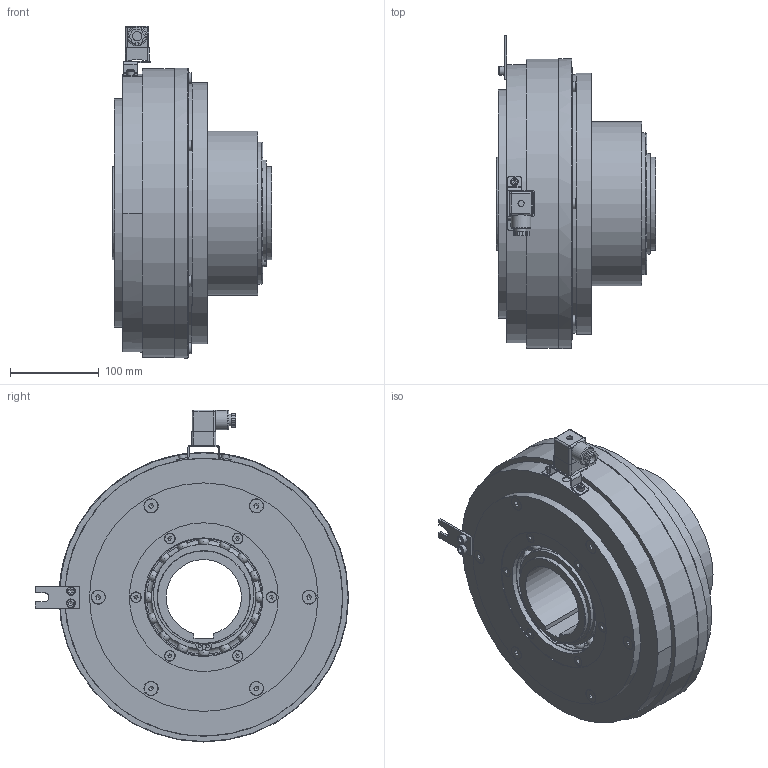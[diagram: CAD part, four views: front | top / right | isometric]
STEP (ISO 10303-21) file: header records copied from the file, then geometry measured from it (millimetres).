
FILE_DESCRIPTION(/* description */ (''),/* implementation_level */ '2;1');
FILE_NAME(/* name */ 'X:\INVENTOR\DISEGNI\08_Freni_Friz_Elettmag_Monodisco\08_26 EMSL_DF\EMSL_DF STEP\08_26_310_41 EMSL310_DF-R_S@STEP.stp',/* time_stamp */ '2018-04-24T09:54:03+02:00',/* author */ ('stefano'),/* organization */ (''),/* preprocessor_version */ 'ST-DEVELOPER v17',/* originating_system */ 'Autodesk Inventor 2018',/* authorisation */ '');
FILE_SCHEMA (('AUTOMOTIVE_DESIGN { 1 0 10303 214 3 1 1 }'));
Products named in the file (1): 08_26_310_41 EMSL310_DF-R - Spina_Substitute_1
Bounding box: 180 x 353.5 x 374.81 mm (x, y, z)
Volume: 6958749.5 mm3; surface area: 1056488.2 mm2
Topology: 2 solids, 4 shells, 1216 faces, 3943 edges, 2691 vertices
Faces by surface type: plane 438, cylinder 435, torus 171, cone 100, sphere 72
Full cylindrical faces by diameter (mm): 2 x1, 3 x12, 3.5 x4, 4 x2, 5 x2, 5.25 x2, 7 x1, 8 x10, 8.1 x12, 8.376 x6, 8.5 x2, 9 x2, 10 x2, 10.106 x6, 10.5 x1, 11.34 x6, 12 x18, 13 x11, 15 x12, 15.24 x6, 16 x12, 22 x1, 48 x6, 101 x2, 105 x4, 117 x1, 117.8 x4, 122.6 x6, 124 x1, 125 x1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
Entity records: 53632 total; most frequent: CARTESIAN_POINT 18462, ORIENTED_EDGE 7548, DIRECTION 7192, EDGE_CURVE 3774, AXIS2_PLACEMENT_3D 3005, VERTEX_POINT 2695, CIRCLE 1788, EDGE_LOOP 1625
